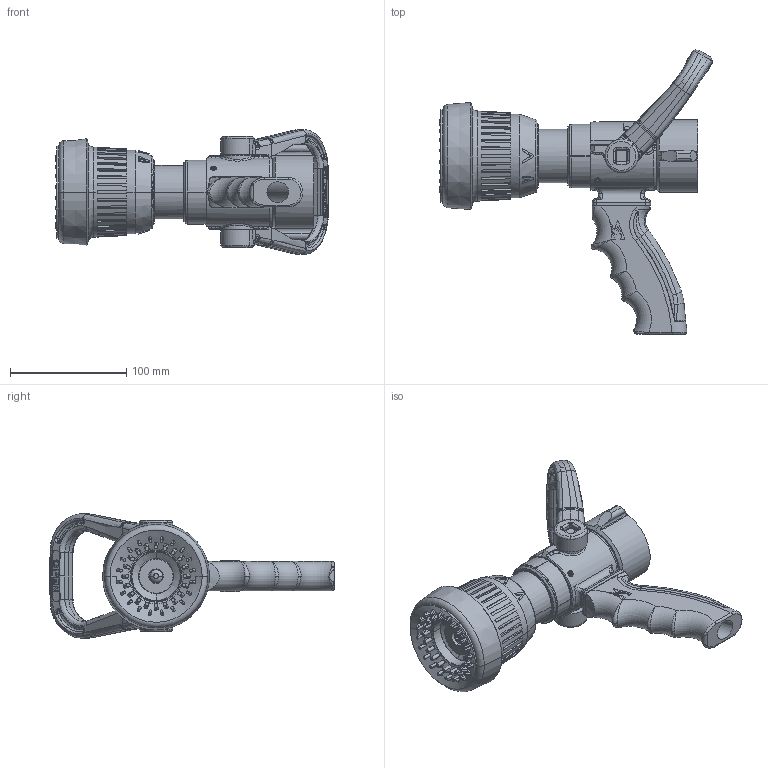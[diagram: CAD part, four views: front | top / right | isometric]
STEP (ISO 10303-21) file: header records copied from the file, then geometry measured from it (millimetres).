
FILE_DESCRIPTION((''),'2;1');
FILE_NAME('30200002_09','2018-10-03T',('sobrien2'),(''),'CREO PARAMETRIC BY PTC INC, 2015290','CREO PARAMETRIC BY PTC INC, 2015290','');
FILE_SCHEMA(('CONFIG_CONTROL_DESIGN'));
Length unit declared in the file: inch
Products named in the file (1): 30200002_09
Bounding box: 234.88 x 244.65 x 107.42 mm (x, y, z)
Surface area: 159677.4 mm2 (no closed solid volume)
Topology: 0 solids, 45 shells, 1564 faces, 4630 edges, 3065 vertices
Faces by surface type: bspline 536, plane 504, cylinder 256, cone 135, torus 71, extrusion 54, sphere 8
Entity records: 80434 total; most frequent: CARTESIAN_POINT 44011, ORIENTED_EDGE 8491, DIRECTION 5662, EDGE_CURVE 4619, VERTEX_POINT 3065, B_SPLINE_CURVE_WITH_KNOTS 2089, AXIS2_PLACEMENT_3D 2050, EDGE_LOOP 1648
